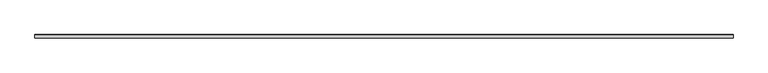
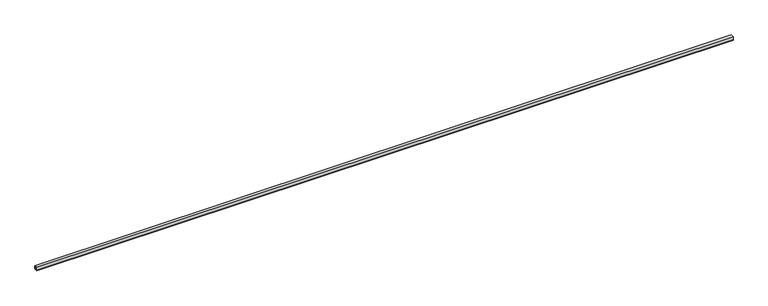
"""IFC4 building model written with IfcOpenShell, lengths in millimetres: light fixture geometry, 20207_レースウェイ : 45型×w40."""

from ifc_helpers import new_model, si_unit, frame, origin, place, context, project, spatial, polyline, outline, extrude, source, transform, mapped, element, save


def light_fixture_e76b6e68(model_context):
    return source(origin(), model_context, "Body", "SweptSolid", [
        extrude(outline(polyline([(-21.7, 8.2), (-20.5, 8.2), (-20.5, 1.2), (20.5, 1.2), (20.5, 8.2), (21.7, 8.2), (21.7, 0.0), (-21.7, 0.0), (-21.7, 8.2)])), frame((-4425.0, 0.0, 0.0), z_axis=(1.0, 0.0, 0.0), x_axis=(0.0, 1.0, 0.0)), (0.0, 0.0, 1.0), 8850.0),
        extrude(outline(polyline([(-20.0, 46.2), (20.0, 46.2), (20.0, 1.2), (18.4, 1.2), (10.0, 11.2), (11.2251278, 12.2291073), (18.4, 3.6875928), (18.4, 44.6), (-18.4, 44.6), (-18.4, 3.6875928), (-11.2251278, 12.2291073), (-10.0, 11.2), (-18.4, 1.2), (-20.0, 1.2), (-20.0, 46.2)])), frame((-4425.0, 0.0, 0.0), z_axis=(1.0, 0.0, 0.0), x_axis=(0.0, 1.0, 0.0)), (0.0, 0.0, 1.0), 8850.0),
    ])


if __name__ == "__main__":
    model = new_model("IFC4")
    model_context = context("Model", 3, world=origin())
    ifc_project = project(units=[si_unit("LENGTHUNIT", "METRE", prefix="MILLI")], contexts=[model_context])
    site = spatial("IfcSite", under=ifc_project)
    building = spatial("IfcBuilding", under=site)
    placement = place(None, origin())
    light_fixture_shape = light_fixture_e76b6e68(model_context)
    element("IfcLightFixture", 1, ObjectType="20207_レースウェイ : 45型×w40", at=placement, inside=building, context=model_context, shape_type="MappedRepresentation", body=[
        mapped(light_fixture_shape, transform((0.0, 0.0, 0.0), x_axis=(1.0, 0.0, 0.0), y_axis=(0.0, 1.0, 0.0), z_axis=(0.0, 0.0, 1.0))),
    ])
    save(model, "model.ifc")
